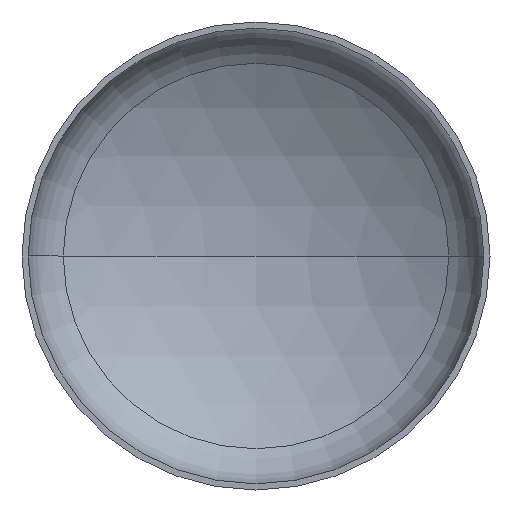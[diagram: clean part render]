
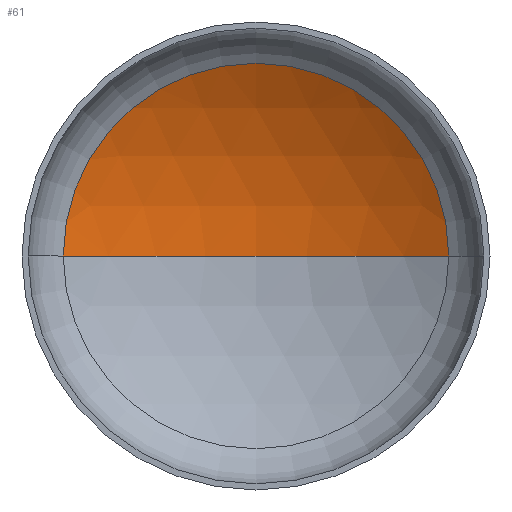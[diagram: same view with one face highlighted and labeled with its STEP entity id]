
A CAD part, front view. The second image highlights one B-rep face of the part: STEP entity #61.
In plain terms, the highlighted spherical face has radius 2720 mm.
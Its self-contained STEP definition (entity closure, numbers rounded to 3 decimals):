
#6 = AXIS2_PLACEMENT_3D ( 'NONE', #242, #147, #369 ) ;
#11 = AXIS2_PLACEMENT_3D ( 'NONE', #288, #142, #405 ) ;
#21 = EDGE_LOOP ( 'NONE', ( #48, #167, #36 ) ) ;
#36 = ORIENTED_EDGE ( 'NONE', *, *, #337, .T. ) ;
#48 = ORIENTED_EDGE ( 'NONE', *, *, #355, .F. ) ;
#54 = VERTEX_POINT ( 'NONE', #363 ) ;
#61 = ADVANCED_FACE ( 'NONE', ( #226 ), #160, .F. ) ;
#62 = AXIS2_PLACEMENT_3D ( 'NONE', #279, #277, #236 ) ;
#72 = VERTEX_POINT ( 'NONE', #220 ) ;
#142 = DIRECTION ( 'NONE',  ( 0., -1., 0. ) ) ;
#147 = DIRECTION ( 'NONE',  ( 0., 0., 1. ) ) ;
#160 = SPHERICAL_SURFACE ( 'NONE', #62, 2720. ) ;
#167 = ORIENTED_EDGE ( 'NONE', *, *, #380, .T. ) ;
#194 = CARTESIAN_POINT ( 'NONE',  ( 0., -1741.788, 0. ) ) ;
#195 = DIRECTION ( 'NONE',  ( 0., 0., -1. ) ) ;
#201 = CARTESIAN_POINT ( 'NONE',  ( 1400.273, 590.086, 0. ) ) ;
#220 = CARTESIAN_POINT ( 'NONE',  ( 0., 978.212, 0. ) ) ;
#226 = FACE_OUTER_BOUND ( 'NONE', #21, .T. ) ;
#236 = DIRECTION ( 'NONE',  ( -1., 0., 0. ) ) ;
#242 = CARTESIAN_POINT ( 'NONE',  ( 0., -1741.788, 0. ) ) ;
#249 = AXIS2_PLACEMENT_3D ( 'NONE', #194, #195, #374 ) ;
#277 = DIRECTION ( 'NONE',  ( 0., 0., -1. ) ) ;
#279 = CARTESIAN_POINT ( 'NONE',  ( 0., -1741.788, 0. ) ) ;
#283 = VERTEX_POINT ( 'NONE', #201 ) ;
#288 = CARTESIAN_POINT ( 'NONE',  ( 0., 590.086, 0. ) ) ;
#337 = EDGE_CURVE ( 'NONE', #283, #54, #362, .T. ) ;
#349 = CIRCLE ( 'NONE', #249, 2720. ) ;
#354 = CIRCLE ( 'NONE', #6, 2720. ) ;
#355 = EDGE_CURVE ( 'NONE', #72, #54, #354, .T. ) ;
#362 = CIRCLE ( 'NONE', #11, 1400.273 ) ;
#363 = CARTESIAN_POINT ( 'NONE',  ( -1400.273, 590.086, 0. ) ) ;
#369 = DIRECTION ( 'NONE',  ( 1., 0., 0. ) ) ;
#374 = DIRECTION ( 'NONE',  ( -1., 0., 0. ) ) ;
#380 = EDGE_CURVE ( 'NONE', #72, #283, #349, .T. ) ;
#405 = DIRECTION ( 'NONE',  ( 1., 0., 0. ) ) ;
